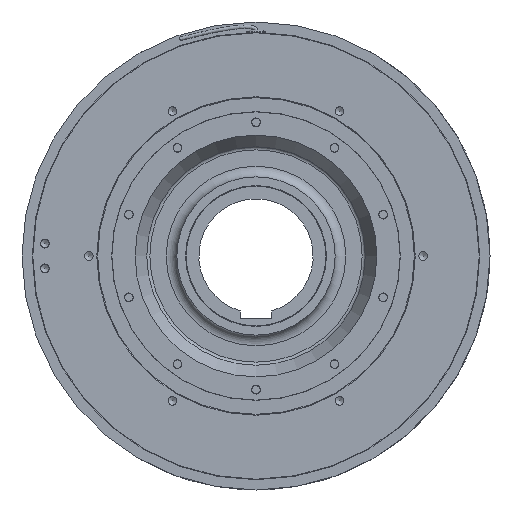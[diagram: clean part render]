
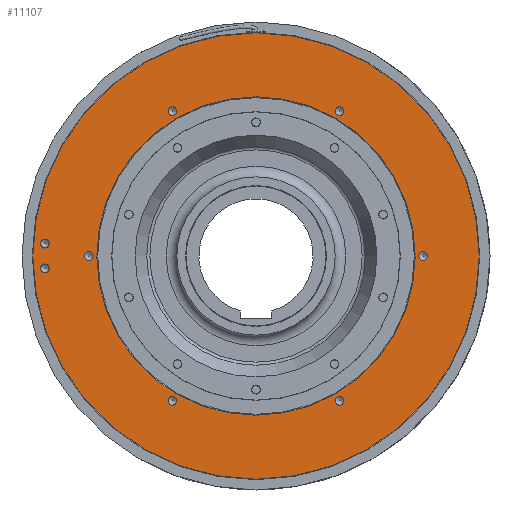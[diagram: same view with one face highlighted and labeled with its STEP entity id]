
A CAD part, left-side view. The second image highlights one B-rep face of the part: STEP entity #11107.
In plain terms, the highlighted planar face has unit normal (-1, 0, 0).
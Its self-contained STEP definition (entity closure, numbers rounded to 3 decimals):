
#228=FACE_BOUND('',#1279,.T.);
#229=FACE_BOUND('',#1280,.T.);
#230=FACE_BOUND('',#1281,.T.);
#231=FACE_BOUND('',#1282,.T.);
#232=FACE_BOUND('',#1283,.T.);
#233=FACE_BOUND('',#1284,.T.);
#234=FACE_BOUND('',#1285,.T.);
#235=FACE_BOUND('',#1286,.T.);
#236=FACE_BOUND('',#1287,.T.);
#429=PLANE('',#11810);
#669=FACE_OUTER_BOUND('',#1278,.T.);
#1278=EDGE_LOOP('',(#7217,#7218,#7219));
#1279=EDGE_LOOP('',(#7220,#7221));
#1280=EDGE_LOOP('',(#7222,#7223));
#1281=EDGE_LOOP('',(#7224,#7225));
#1282=EDGE_LOOP('',(#7226,#7227));
#1283=EDGE_LOOP('',(#7228,#7229));
#1284=EDGE_LOOP('',(#7230,#7231));
#1285=EDGE_LOOP('',(#7232,#7233));
#1286=EDGE_LOOP('',(#7234,#7235));
#1287=EDGE_LOOP('',(#7236));
#2032=CIRCLE('',#11699,126.85);
#2033=CIRCLE('',#11700,126.85);
#2071=CIRCLE('',#11759,2.459);
#2072=CIRCLE('',#11760,2.459);
#2075=CIRCLE('',#11765,2.459);
#2076=CIRCLE('',#11766,2.459);
#2081=CIRCLE('',#11774,2.459);
#2082=CIRCLE('',#11775,2.459);
#2085=CIRCLE('',#11780,2.459);
#2086=CIRCLE('',#11781,2.459);
#2089=CIRCLE('',#11786,2.459);
#2090=CIRCLE('',#11787,2.459);
#2093=CIRCLE('',#11792,2.459);
#2094=CIRCLE('',#11793,2.459);
#2097=CIRCLE('',#11798,2.459);
#2098=CIRCLE('',#11799,2.459);
#2101=CIRCLE('',#11804,2.459);
#2102=CIRCLE('',#11805,2.459);
#2105=CIRCLE('',#11809,90.5);
#2106=CIRCLE('',#11811,126.85);
#4170=VERTEX_POINT('',#16980);
#4171=VERTEX_POINT('',#16982);
#4172=VERTEX_POINT('',#16984);
#4206=VERTEX_POINT('',#17532);
#4207=VERTEX_POINT('',#17533);
#4210=VERTEX_POINT('',#17544);
#4211=VERTEX_POINT('',#17545);
#4217=VERTEX_POINT('',#17563);
#4218=VERTEX_POINT('',#17564);
#4222=VERTEX_POINT('',#17576);
#4223=VERTEX_POINT('',#17577);
#4227=VERTEX_POINT('',#17589);
#4228=VERTEX_POINT('',#17590);
#4232=VERTEX_POINT('',#17602);
#4233=VERTEX_POINT('',#17603);
#4237=VERTEX_POINT('',#17615);
#4238=VERTEX_POINT('',#17616);
#4242=VERTEX_POINT('',#17628);
#4243=VERTEX_POINT('',#17629);
#4246=VERTEX_POINT('',#17638);
#5342=EDGE_CURVE('',#4171,#4170,#2032,.T.);
#5343=EDGE_CURVE('',#4172,#4171,#2033,.T.);
#5404=EDGE_CURVE('',#4206,#4207,#2071,.T.);
#5405=EDGE_CURVE('',#4207,#4206,#2072,.T.);
#5410=EDGE_CURVE('',#4210,#4211,#2075,.T.);
#5411=EDGE_CURVE('',#4211,#4210,#2076,.T.);
#5419=EDGE_CURVE('',#4217,#4218,#2081,.T.);
#5420=EDGE_CURVE('',#4218,#4217,#2082,.T.);
#5425=EDGE_CURVE('',#4222,#4223,#2085,.T.);
#5426=EDGE_CURVE('',#4223,#4222,#2086,.T.);
#5431=EDGE_CURVE('',#4227,#4228,#2089,.T.);
#5432=EDGE_CURVE('',#4228,#4227,#2090,.T.);
#5437=EDGE_CURVE('',#4232,#4233,#2093,.T.);
#5438=EDGE_CURVE('',#4233,#4232,#2094,.T.);
#5443=EDGE_CURVE('',#4237,#4238,#2097,.T.);
#5444=EDGE_CURVE('',#4238,#4237,#2098,.T.);
#5449=EDGE_CURVE('',#4242,#4243,#2101,.T.);
#5450=EDGE_CURVE('',#4243,#4242,#2102,.T.);
#5455=EDGE_CURVE('',#4246,#4246,#2105,.T.);
#5456=EDGE_CURVE('',#4170,#4172,#2106,.T.);
#7217=ORIENTED_EDGE('',*,*,#5342,.T.);
#7218=ORIENTED_EDGE('',*,*,#5456,.T.);
#7219=ORIENTED_EDGE('',*,*,#5343,.T.);
#7220=ORIENTED_EDGE('',*,*,#5404,.T.);
#7221=ORIENTED_EDGE('',*,*,#5405,.T.);
#7222=ORIENTED_EDGE('',*,*,#5410,.T.);
#7223=ORIENTED_EDGE('',*,*,#5411,.T.);
#7224=ORIENTED_EDGE('',*,*,#5419,.T.);
#7225=ORIENTED_EDGE('',*,*,#5420,.T.);
#7226=ORIENTED_EDGE('',*,*,#5425,.T.);
#7227=ORIENTED_EDGE('',*,*,#5426,.T.);
#7228=ORIENTED_EDGE('',*,*,#5431,.T.);
#7229=ORIENTED_EDGE('',*,*,#5432,.T.);
#7230=ORIENTED_EDGE('',*,*,#5437,.T.);
#7231=ORIENTED_EDGE('',*,*,#5438,.T.);
#7232=ORIENTED_EDGE('',*,*,#5443,.T.);
#7233=ORIENTED_EDGE('',*,*,#5444,.T.);
#7234=ORIENTED_EDGE('',*,*,#5449,.T.);
#7235=ORIENTED_EDGE('',*,*,#5450,.T.);
#7236=ORIENTED_EDGE('',*,*,#5455,.F.);
#11107=ADVANCED_FACE('',(#669,#228,#229,#230,#231,#232,#233,#234,#235,#236),
#429,.T.);
#11699=AXIS2_PLACEMENT_3D('',#16983,#13267,#13268);
#11700=AXIS2_PLACEMENT_3D('',#16985,#13269,#13270);
#11759=AXIS2_PLACEMENT_3D('',#17534,#13400,#13401);
#11760=AXIS2_PLACEMENT_3D('',#17535,#13402,#13403);
#11765=AXIS2_PLACEMENT_3D('',#17546,#13414,#13415);
#11766=AXIS2_PLACEMENT_3D('',#17547,#13416,#13417);
#11774=AXIS2_PLACEMENT_3D('',#17565,#13435,#13436);
#11775=AXIS2_PLACEMENT_3D('',#17566,#13437,#13438);
#11780=AXIS2_PLACEMENT_3D('',#17578,#13449,#13450);
#11781=AXIS2_PLACEMENT_3D('',#17579,#13451,#13452);
#11786=AXIS2_PLACEMENT_3D('',#17591,#13463,#13464);
#11787=AXIS2_PLACEMENT_3D('',#17592,#13465,#13466);
#11792=AXIS2_PLACEMENT_3D('',#17604,#13477,#13478);
#11793=AXIS2_PLACEMENT_3D('',#17605,#13479,#13480);
#11798=AXIS2_PLACEMENT_3D('',#17617,#13491,#13492);
#11799=AXIS2_PLACEMENT_3D('',#17618,#13493,#13494);
#11804=AXIS2_PLACEMENT_3D('',#17630,#13505,#13506);
#11805=AXIS2_PLACEMENT_3D('',#17631,#13507,#13508);
#11809=AXIS2_PLACEMENT_3D('',#17640,#13517,#13518);
#11810=AXIS2_PLACEMENT_3D('',#17641,#13519,#13520);
#11811=AXIS2_PLACEMENT_3D('',#17642,#13521,#13522);
#13267=DIRECTION('center_axis',(-1.,0.,0.));
#13268=DIRECTION('ref_axis',(0.,1.,0.));
#13269=DIRECTION('center_axis',(-1.,0.,0.));
#13270=DIRECTION('ref_axis',(0.,1.,0.));
#13400=DIRECTION('center_axis',(1.,0.,0.));
#13401=DIRECTION('ref_axis',(0.,0.,
1.));
#13402=DIRECTION('center_axis',(1.,0.,0.));
#13403=DIRECTION('ref_axis',(0.,0.,
1.));
#13414=DIRECTION('center_axis',(1.,0.,0.));
#13415=DIRECTION('ref_axis',(0.,0.,
1.));
#13416=DIRECTION('center_axis',(1.,0.,0.));
#13417=DIRECTION('ref_axis',(0.,0.,
1.));
#13435=DIRECTION('center_axis',(1.,0.,0.));
#13436=DIRECTION('ref_axis',(0.,0.,
1.));
#13437=DIRECTION('center_axis',(1.,0.,0.));
#13438=DIRECTION('ref_axis',(0.,0.,
1.));
#13449=DIRECTION('center_axis',(1.,0.,0.));
#13450=DIRECTION('ref_axis',(0.,0.,
1.));
#13451=DIRECTION('center_axis',(1.,0.,0.));
#13452=DIRECTION('ref_axis',(0.,0.,
1.));
#13463=DIRECTION('center_axis',(1.,0.,0.));
#13464=DIRECTION('ref_axis',(0.,0.,
1.));
#13465=DIRECTION('center_axis',(1.,0.,0.));
#13466=DIRECTION('ref_axis',(0.,0.,
1.));
#13477=DIRECTION('center_axis',(1.,0.,0.));
#13478=DIRECTION('ref_axis',(0.,0.,
1.));
#13479=DIRECTION('center_axis',(1.,0.,0.));
#13480=DIRECTION('ref_axis',(0.,0.,
1.));
#13491=DIRECTION('center_axis',(1.,0.,0.));
#13492=DIRECTION('ref_axis',(0.,0.,
1.));
#13493=DIRECTION('center_axis',(1.,0.,0.));
#13494=DIRECTION('ref_axis',(0.,0.,
1.));
#13505=DIRECTION('center_axis',(1.,0.,0.));
#13506=DIRECTION('ref_axis',(0.,0.,
1.));
#13507=DIRECTION('center_axis',(1.,0.,0.));
#13508=DIRECTION('ref_axis',(0.,0.,
1.));
#13517=DIRECTION('center_axis',(-1.,0.,0.));
#13518=DIRECTION('ref_axis',(0.,-1.,0.));
#13519=DIRECTION('center_axis',(-1.,0.,0.));
#13520=DIRECTION('ref_axis',(0.,0.,
1.));
#13521=DIRECTION('center_axis',(-1.,0.,0.));
#13522=DIRECTION('ref_axis',(0.,1.,0.));
#16980=CARTESIAN_POINT('',(-19.,-126.85,0.));
#16982=CARTESIAN_POINT('',(-19.,126.85,0.));
#16983=CARTESIAN_POINT('Origin',(-19.,0.,0.));
#16984=CARTESIAN_POINT('',(-19.,0.,126.85));
#16985=CARTESIAN_POINT('Origin',(-19.,0.,0.));
#17532=CARTESIAN_POINT('',(-19.,120.,9.459));
#17533=CARTESIAN_POINT('',(-19.,120.,4.542));
#17534=CARTESIAN_POINT('Origin',(-19.,120.,7.));
#17535=CARTESIAN_POINT('Origin',(-19.,120.,7.));
#17544=CARTESIAN_POINT('',(-19.,120.,-4.542));
#17545=CARTESIAN_POINT('',(-19.,120.,-9.459));
#17546=CARTESIAN_POINT('Origin',(-19.,120.,-7.));
#17547=CARTESIAN_POINT('Origin',(-19.,120.,-7.));
#17563=CARTESIAN_POINT('',(-19.,47.5,84.731));
#17564=CARTESIAN_POINT('',(-19.,47.5,79.814));
#17565=CARTESIAN_POINT('Origin',(-19.,47.5,82.272));
#17566=CARTESIAN_POINT('Origin',(-19.,47.5,82.272));
#17576=CARTESIAN_POINT('',(-19.,-47.5,84.731));
#17577=CARTESIAN_POINT('',(-19.,-47.5,79.814));
#17578=CARTESIAN_POINT('Origin',(-19.,-47.5,82.272));
#17579=CARTESIAN_POINT('Origin',(-19.,-47.5,82.272));
#17589=CARTESIAN_POINT('',(-19.,-95.,2.458));
#17590=CARTESIAN_POINT('',(-19.,-95.,-2.459));
#17591=CARTESIAN_POINT('Origin',(-19.,-95.,0.));
#17592=CARTESIAN_POINT('Origin',(-19.,-95.,0.));
#17602=CARTESIAN_POINT('',(-19.,-47.5,-79.814));
#17603=CARTESIAN_POINT('',(-19.,-47.5,-84.731));
#17604=CARTESIAN_POINT('Origin',(-19.,-47.5,-82.272));
#17605=CARTESIAN_POINT('Origin',(-19.,-47.5,-82.272));
#17615=CARTESIAN_POINT('',(-19.,47.5,-79.814));
#17616=CARTESIAN_POINT('',(-19.,47.5,-84.731));
#17617=CARTESIAN_POINT('Origin',(-19.,47.5,-82.272));
#17618=CARTESIAN_POINT('Origin',(-19.,47.5,-82.272));
#17628=CARTESIAN_POINT('',(-19.,95.,2.459));
#17629=CARTESIAN_POINT('',(-19.,95.,-2.459));
#17630=CARTESIAN_POINT('Origin',(-19.,95.,0.));
#17631=CARTESIAN_POINT('Origin',(-19.,95.,0.));
#17638=CARTESIAN_POINT('',(-19.,90.5,0.));
#17640=CARTESIAN_POINT('Origin',(-19.,0.,0.));
#17641=CARTESIAN_POINT('Origin',(-19.,108.425,0.));
#17642=CARTESIAN_POINT('Origin',(-19.,0.,0.));
